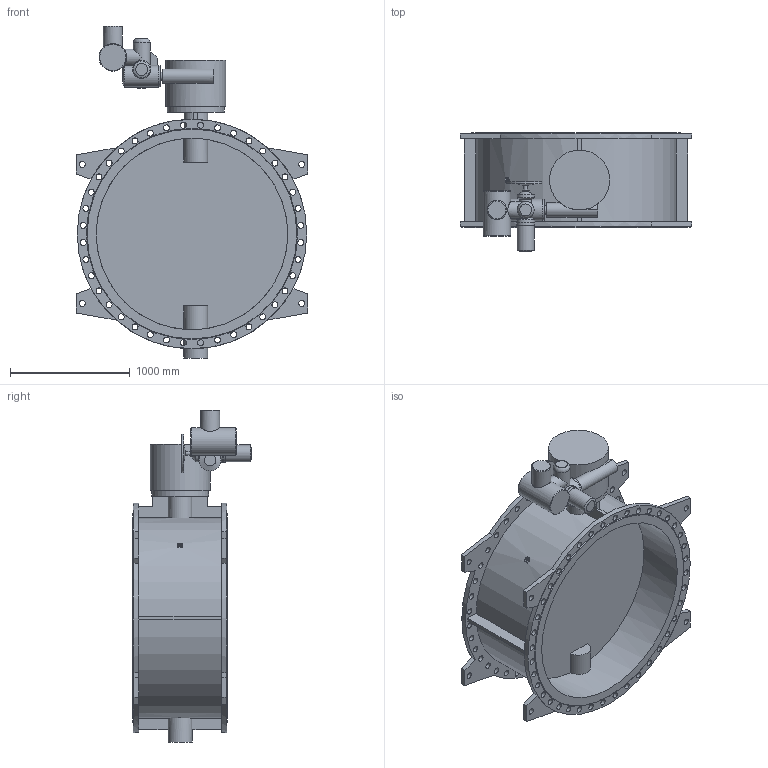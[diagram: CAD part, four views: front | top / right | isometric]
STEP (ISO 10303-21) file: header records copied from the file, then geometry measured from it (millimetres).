
FILE_DESCRIPTION(('STEP AP203'), '1');
FILE_NAME('Çàòâîð 023F.Z DN1600 PN10 + ðåäóêòîð + ÌÒ903.À30 ñ ÁÓ', '', ('UNSPECIFIED'), ('UNSPECIFIED'), 'ASCON STEP Converter 1.6', 'ASCON Math Kernel', '');
FILE_SCHEMA(('CONFIG_CONTROL_DESIGN'));
Length unit declared in the file: millimetre
Bounding box: 1930 x 989 x 2770 mm (x, y, z)
Volume: 573512420.1 mm3; surface area: 18805774.8 mm2
Topology: 1 solids, 1 shells, 286 faces, 710 edges, 468 vertices
Faces by surface type: cylinder 156, plane 116, cone 13, torus 1
Full cylindrical faces by diameter (mm): 14 x4, 18 x4, 32 x1, 33 x8, 39 x8, 50 x88, 60 x1, 70 x1, 100 x1, 120 x1, 140 x4, 147 x1, 151 x1, 160 x1, 175 x1, 180 x1, 200 x1, 230 x1, 475 x1, 500 x1, 1600 x2, 1915 x2
Entity records: 12645 total; most frequent: CARTESIAN_POINT 3529, DIRECTION 1419, ORIENTED_EDGE 1120, EDGE_LOOP 651, AXIS2_PLACEMENT_3D 614, EDGE_CURVE 560, VERTEX_POINT 467, FACE_BOUND 368
